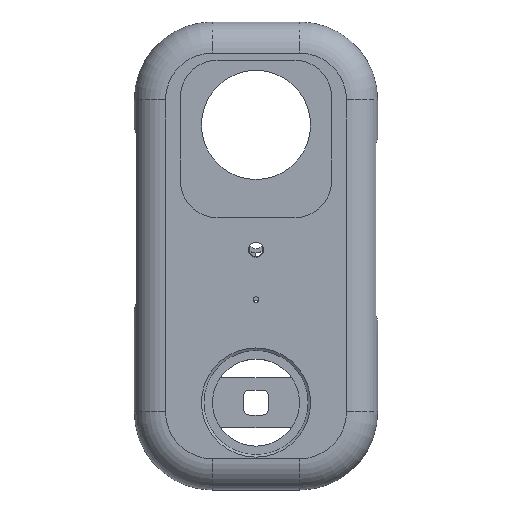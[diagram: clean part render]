
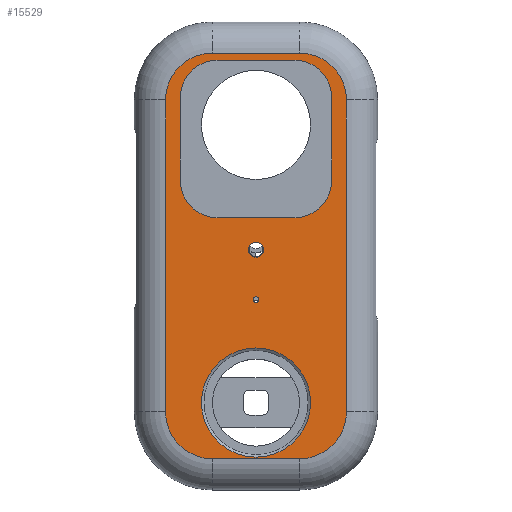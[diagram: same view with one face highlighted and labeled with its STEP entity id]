
A CAD part, top view. The second image highlights one B-rep face of the part: STEP entity #15529.
In plain terms, the highlighted planar face has unit normal (0, 0, 1).
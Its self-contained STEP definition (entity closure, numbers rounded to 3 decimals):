
#148=FACE_BOUND('',#1873,.T.);
#149=FACE_BOUND('',#1874,.T.);
#150=FACE_BOUND('',#1875,.T.);
#151=FACE_BOUND('',#1876,.T.);
#361=PLANE('',#16826);
#1002=FACE_OUTER_BOUND('',#1872,.T.);
#1872=EDGE_LOOP('',(#12401,#12402,#12403,#12404,#12405,#12406,#12407,#12408));
#1873=EDGE_LOOP('',(#12409));
#1874=EDGE_LOOP('',(#12410));
#1875=EDGE_LOOP('',(#12411,#12412,#12413,#12414,#12415,#12416,#12417,#12418));
#1876=EDGE_LOOP('',(#12419));
#2445=LINE('',#22646,#3944);
#2449=LINE('',#22658,#3948);
#2457=LINE('',#22681,#3956);
#2458=LINE('',#22683,#3957);
#3253=LINE('',#26088,#4752);
#3254=LINE('',#26092,#4753);
#3255=LINE('',#26096,#4754);
#3256=LINE('',#26100,#4755);
#3944=VECTOR('',#17892,10.);
#3948=VECTOR('',#17904,10.);
#3956=VECTOR('',#17928,10.);
#3957=VECTOR('',#17931,10.);
#4752=VECTOR('',#20146,1.);
#4753=VECTOR('',#20149,1.);
#4754=VECTOR('',#20152,1.);
#4755=VECTOR('',#20155,1.);
#5376=CIRCLE('',#16032,2.45);
#5411=CIRCLE('',#16092,17.5);
#5416=CIRCLE('',#16101,11.7);
#5418=CIRCLE('',#16105,11.7);
#5420=CIRCLE('',#16109,11.7);
#5423=CIRCLE('',#16114,11.7);
#5818=CIRCLE('',#16827,15.);
#5819=CIRCLE('',#16828,15.);
#5820=CIRCLE('',#16829,15.);
#5821=CIRCLE('',#16830,15.);
#5822=CIRCLE('',#16831,0.9);
#6178=VERTEX_POINT('',#22425);
#6249=VERTEX_POINT('',#22619);
#6254=VERTEX_POINT('',#22636);
#6255=VERTEX_POINT('',#22637);
#6258=VERTEX_POINT('',#22645);
#6260=VERTEX_POINT('',#22651);
#6262=VERTEX_POINT('',#22657);
#6264=VERTEX_POINT('',#22663);
#6265=VERTEX_POINT('',#22664);
#6269=VERTEX_POINT('',#22677);
#7192=VERTEX_POINT('',#26086);
#7193=VERTEX_POINT('',#26087);
#7194=VERTEX_POINT('',#26089);
#7195=VERTEX_POINT('',#26091);
#7196=VERTEX_POINT('',#26093);
#7197=VERTEX_POINT('',#26095);
#7198=VERTEX_POINT('',#26097);
#7199=VERTEX_POINT('',#26099);
#7200=VERTEX_POINT('',#26102);
#7743=EDGE_CURVE('',#6178,#6178,#5376,.T.);
#7841=EDGE_CURVE('',#6249,#6249,#5411,.T.);
#7848=EDGE_CURVE('',#6254,#6255,#5416,.T.);
#7852=EDGE_CURVE('',#6255,#6258,#2445,.T.);
#7855=EDGE_CURVE('',#6258,#6260,#5418,.T.);
#7858=EDGE_CURVE('',#6260,#6262,#2449,.T.);
#7861=EDGE_CURVE('',#6264,#6265,#5420,.T.);
#7868=EDGE_CURVE('',#6262,#6269,#5423,.T.);
#7870=EDGE_CURVE('',#6269,#6264,#2457,.T.);
#7871=EDGE_CURVE('',#6265,#6254,#2458,.T.);
#9134=EDGE_CURVE('',#7192,#7193,#3253,.T.);
#9135=EDGE_CURVE('',#7194,#7192,#5818,.T.);
#9136=EDGE_CURVE('',#7195,#7194,#3254,.T.);
#9137=EDGE_CURVE('',#7196,#7195,#5819,.T.);
#9138=EDGE_CURVE('',#7197,#7196,#3255,.T.);
#9139=EDGE_CURVE('',#7198,#7197,#5820,.T.);
#9140=EDGE_CURVE('',#7199,#7198,#3256,.T.);
#9141=EDGE_CURVE('',#7193,#7199,#5821,.T.);
#9142=EDGE_CURVE('',#7200,#7200,#5822,.T.);
#12401=ORIENTED_EDGE('',*,*,#9134,.F.);
#12402=ORIENTED_EDGE('',*,*,#9135,.F.);
#12403=ORIENTED_EDGE('',*,*,#9136,.F.);
#12404=ORIENTED_EDGE('',*,*,#9137,.F.);
#12405=ORIENTED_EDGE('',*,*,#9138,.F.);
#12406=ORIENTED_EDGE('',*,*,#9139,.F.);
#12407=ORIENTED_EDGE('',*,*,#9140,.F.);
#12408=ORIENTED_EDGE('',*,*,#9141,.F.);
#12409=ORIENTED_EDGE('',*,*,#7743,.T.);
#12410=ORIENTED_EDGE('',*,*,#7841,.T.);
#12411=ORIENTED_EDGE('',*,*,#7868,.T.);
#12412=ORIENTED_EDGE('',*,*,#7870,.T.);
#12413=ORIENTED_EDGE('',*,*,#7861,.T.);
#12414=ORIENTED_EDGE('',*,*,#7871,.T.);
#12415=ORIENTED_EDGE('',*,*,#7848,.T.);
#12416=ORIENTED_EDGE('',*,*,#7852,.T.);
#12417=ORIENTED_EDGE('',*,*,#7855,.T.);
#12418=ORIENTED_EDGE('',*,*,#7858,.T.);
#12419=ORIENTED_EDGE('',*,*,#9142,.T.);
#15529=ADVANCED_FACE('',(#1002,#148,#149,#150,#151),#361,.F.);
#16032=AXIS2_PLACEMENT_3D('',#22427,#17681,#17682);
#16092=AXIS2_PLACEMENT_3D('',#22621,#17864,#17865);
#16101=AXIS2_PLACEMENT_3D('',#22638,#17884,#17885);
#16105=AXIS2_PLACEMENT_3D('',#22652,#17897,#17898);
#16109=AXIS2_PLACEMENT_3D('',#22665,#17909,#17910);
#16114=AXIS2_PLACEMENT_3D('',#22678,#17923,#17924);
#16826=AXIS2_PLACEMENT_3D('',#26085,#20144,#20145);
#16827=AXIS2_PLACEMENT_3D('',#26090,#20147,#20148);
#16828=AXIS2_PLACEMENT_3D('',#26094,#20150,#20151);
#16829=AXIS2_PLACEMENT_3D('',#26098,#20153,#20154);
#16830=AXIS2_PLACEMENT_3D('',#26101,#20156,#20157);
#16831=AXIS2_PLACEMENT_3D('',#26103,#20158,#20159);
#17681=DIRECTION('center_axis',(0.,0.,-1.));
#17682=DIRECTION('ref_axis',(1.,0.,0.));
#17864=DIRECTION('center_axis',(0.,0.,-1.));
#17865=DIRECTION('ref_axis',(1.,0.,0.));
#17884=DIRECTION('center_axis',(0.,0.,-1.));
#17885=DIRECTION('ref_axis',(1.,0.,0.));
#17892=DIRECTION('',(0.,-1.,0.));
#17897=DIRECTION('center_axis',(0.,0.,-1.));
#17898=DIRECTION('ref_axis',(1.,0.,0.));
#17904=DIRECTION('',(-1.,0.,0.));
#17909=DIRECTION('center_axis',(0.,0.,-1.));
#17910=DIRECTION('ref_axis',(1.,0.,0.));
#17923=DIRECTION('center_axis',(0.,0.,-1.));
#17924=DIRECTION('ref_axis',(1.,0.,0.));
#17928=DIRECTION('',(0.,1.,0.));
#17931=DIRECTION('',(1.,0.,0.));
#20144=DIRECTION('center_axis',(0.,0.,-1.));
#20145=DIRECTION('ref_axis',(-1.,0.,0.));
#20146=DIRECTION('',(-1.,0.,0.));
#20147=DIRECTION('center_axis',(0.,0.,-1.));
#20148=DIRECTION('ref_axis',(0.707,-0.707,0.));
#20149=DIRECTION('',(0.,-1.,0.));
#20150=DIRECTION('center_axis',(0.,0.,-1.));
#20151=DIRECTION('ref_axis',(0.707,0.707,0.));
#20152=DIRECTION('',(1.,0.,0.));
#20153=DIRECTION('center_axis',(0.,0.,-1.));
#20154=DIRECTION('ref_axis',(-0.707,0.707,0.));
#20155=DIRECTION('',(0.,1.,0.));
#20156=DIRECTION('center_axis',(0.,0.,-1.));
#20157=DIRECTION('ref_axis',(-0.707,-0.707,0.));
#20158=DIRECTION('center_axis',(0.,0.,-1.));
#20159=DIRECTION('ref_axis',(-1.,0.,0.));
#22425=CARTESIAN_POINT('',(-2.45,2.,0.));
#22427=CARTESIAN_POINT('Origin',(0.,2.,0.));
#22619=CARTESIAN_POINT('',(-17.5,-47.,0.));
#22621=CARTESIAN_POINT('Origin',(0.,-47.,0.));
#22636=CARTESIAN_POINT('',(12.5,62.7,0.));
#22637=CARTESIAN_POINT('',(24.2,51.,0.));
#22638=CARTESIAN_POINT('Origin',(12.5,51.,0.));
#22645=CARTESIAN_POINT('',(24.2,24.,0.));
#22646=CARTESIAN_POINT('',(24.2,18.75,0.));
#22651=CARTESIAN_POINT('',(12.5,12.3,0.));
#22652=CARTESIAN_POINT('Origin',(12.5,24.,0.));
#22657=CARTESIAN_POINT('',(-12.5,12.3,0.));
#22658=CARTESIAN_POINT('',(0.,12.3,0.));
#22663=CARTESIAN_POINT('',(-24.2,51.,0.));
#22664=CARTESIAN_POINT('',(-12.5,62.7,0.));
#22665=CARTESIAN_POINT('Origin',(-12.5,51.,0.));
#22677=CARTESIAN_POINT('',(-24.2,24.,0.));
#22678=CARTESIAN_POINT('Origin',(-12.5,24.,0.));
#22681=CARTESIAN_POINT('',(-24.2,18.75,0.));
#22683=CARTESIAN_POINT('',(0.,62.7,0.));
#26085=CARTESIAN_POINT('Origin',(0.,0.,0.));
#26086=CARTESIAN_POINT('',(14.,-65.,0.));
#26087=CARTESIAN_POINT('',(-14.,-65.,0.));
#26088=CARTESIAN_POINT('',(7.,-65.,0.));
#26089=CARTESIAN_POINT('',(29.,-50.,0.));
#26090=CARTESIAN_POINT('Origin',(14.,-50.,0.));
#26091=CARTESIAN_POINT('',(29.,50.,0.));
#26092=CARTESIAN_POINT('',(29.,25.,0.));
#26093=CARTESIAN_POINT('',(14.,65.,0.));
#26094=CARTESIAN_POINT('Origin',(14.,50.,0.));
#26095=CARTESIAN_POINT('',(-14.,65.,0.));
#26096=CARTESIAN_POINT('',(-7.,65.,0.));
#26097=CARTESIAN_POINT('',(-29.,50.,0.));
#26098=CARTESIAN_POINT('Origin',(-14.,50.,0.));
#26099=CARTESIAN_POINT('',(-29.,-50.,0.));
#26100=CARTESIAN_POINT('',(-29.,-25.,0.));
#26101=CARTESIAN_POINT('Origin',(-14.,-50.,0.));
#26102=CARTESIAN_POINT('',(0.9,-14.,0.));
#26103=CARTESIAN_POINT('Origin',(0.,-14.,0.));
